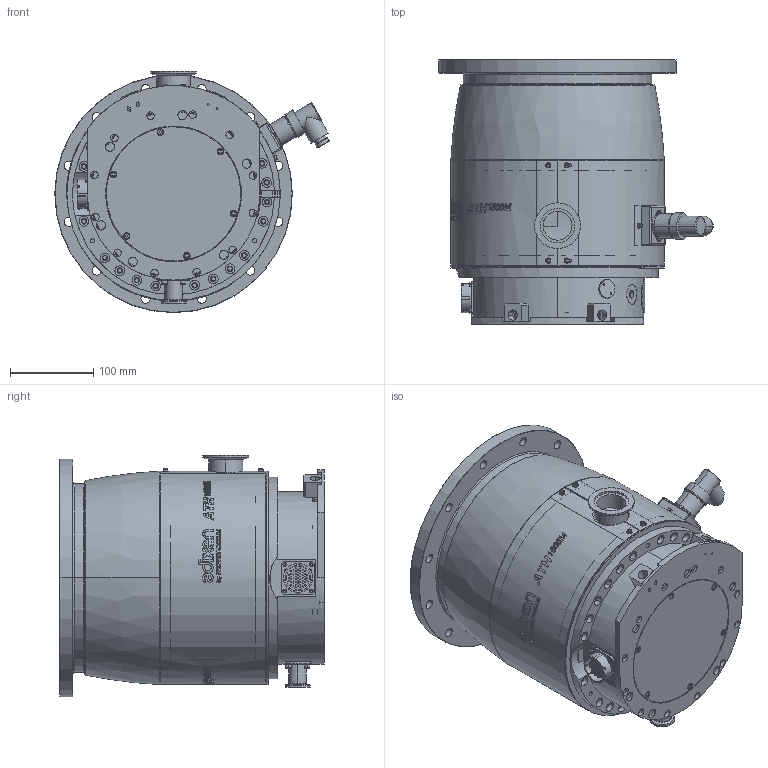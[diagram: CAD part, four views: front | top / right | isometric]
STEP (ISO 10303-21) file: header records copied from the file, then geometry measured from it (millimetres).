
FILE_DESCRIPTION((''),'2;1');
FILE_NAME('P6563103-2','2020-09-24T',('rcriado'),(''),'PRO/ENGINEER BY PARAMETRIC TECHNOLOGY CORPORATION, 2015280','PRO/ENGINEER BY PARAMETRIC TECHNOLOGY CORPORATION, 2015280','');
FILE_SCHEMA(('CONFIG_CONTROL_DESIGN'));
Products named in the file (1): P6563103-2
Bounding box: 329.23 x 317.52 x 289.5 mm (x, y, z)
Volume: 14558983.6 mm3; surface area: 723965.9 mm2
Topology: 6 solids, 6 shells, 3387 faces, 8920 edges, 5750 vertices
Faces by surface type: plane 1206, cylinder 983, bspline 852, cone 128, sphere 124, torus 76, extrusion 18
Entity records: 129562 total; most frequent: CARTESIAN_POINT 49505, ORIENTED_EDGE 17600, DIRECTION 14921, EDGE_CURVE 8800, VERTEX_POINT 5750, AXIS2_PLACEMENT_3D 5557, EDGE_LOOP 3988, VECTOR 3807
